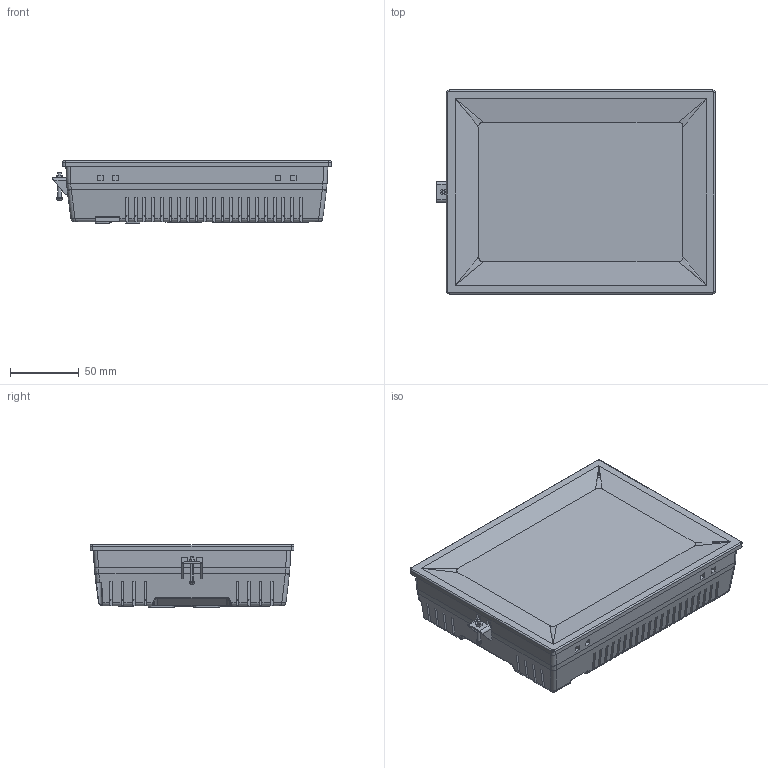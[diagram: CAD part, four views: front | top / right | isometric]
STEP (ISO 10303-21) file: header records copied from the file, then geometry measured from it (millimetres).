
FILE_DESCRIPTION((''),'2;1');
FILE_NAME('CU_TPC-2106','2008-01-09T',('talbott'),(''),'PRO/ENGINEER BY PARAMETRIC TECHNOLOGY CORPORATION, 2006080','PRO/ENGINEER BY PARAMETRIC TECHNOLOGY CORPORATION, 2006080','');
FILE_SCHEMA(('CONFIG_CONTROL_DESIGN'));
Length unit declared in the file: millimetre
Products named in the file (1): CU_TPC-2106
Bounding box: 202 x 148 x 45.4 mm (x, y, z)
Volume: 1110572.6 mm3; surface area: 101429.2 mm2
Topology: 1 solids, 1 shells, 1815 faces, 4516 edges, 2908 vertices
Faces by surface type: plane 836, cylinder 740, bspline 141, torus 57, cone 28, sphere 13
Entity records: 58961 total; most frequent: CARTESIAN_POINT 15047, DIRECTION 9408, ORIENTED_EDGE 8966, EDGE_CURVE 4483, AXIS2_PLACEMENT_3D 3420, VERTEX_POINT 2908, VECTOR 2568, LINE 2568
